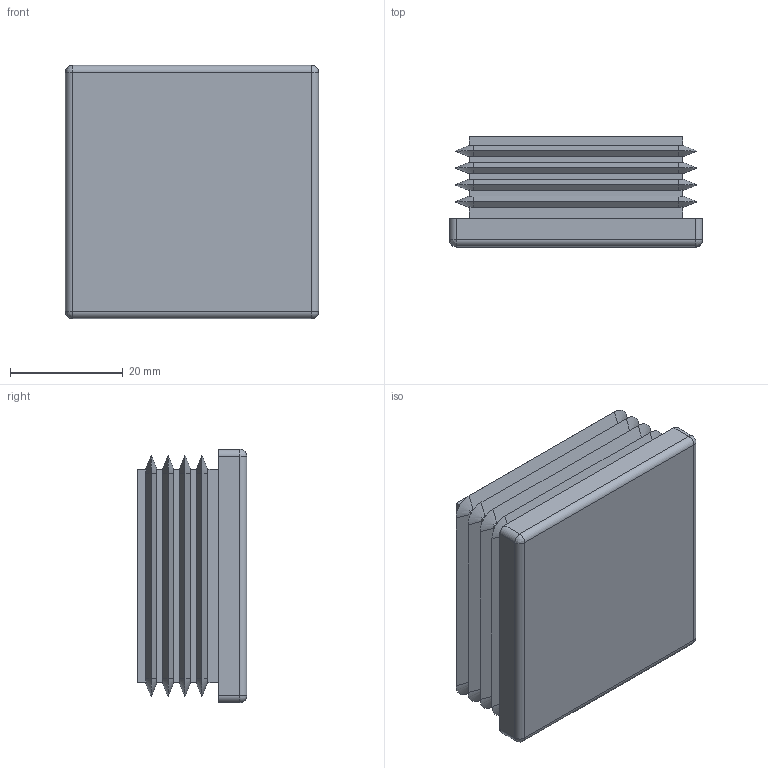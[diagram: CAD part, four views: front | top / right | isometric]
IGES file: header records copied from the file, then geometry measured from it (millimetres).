
Start section: SolidWorks IGES file using analytic representation for surfaces
Global section: file name: C:\HEMSIDA\cad\SLDPRT_2015\ifr\\ifr_45.igs; native system: SolidWorks 2015; preprocessor: SolidWorks 2015; author: Magnus; date: 150818.111802; units: millimetre
Bounding box: 45 x 19.5 x 45 mm (x, y, z)
Surface area: 11301.1 mm2 (no closed solid volume)
Topology: 0 solids, 0 shells, 108 faces, 760 edges, 756 vertices
Faces by surface type: bspline 64, revolution 44
